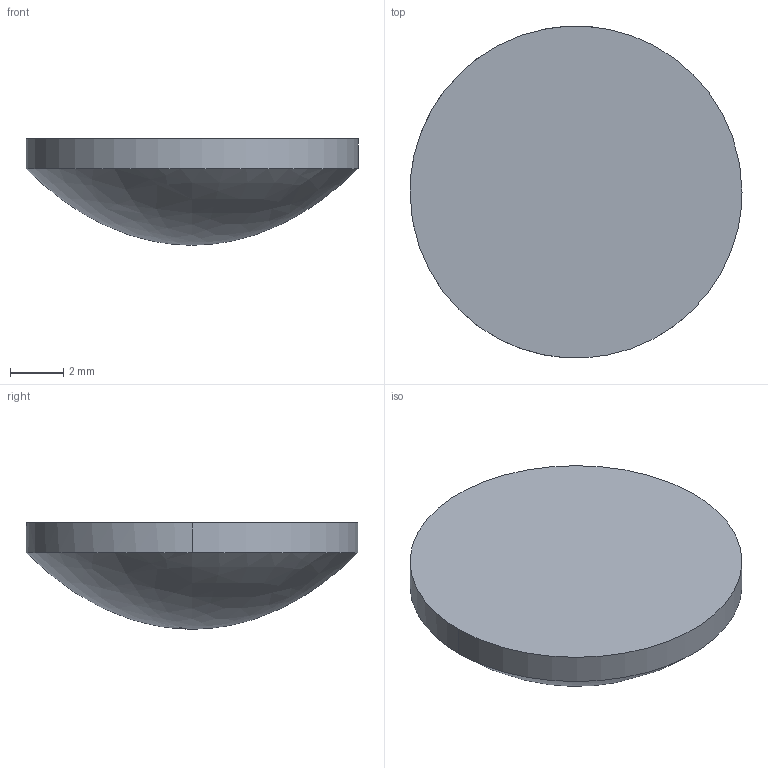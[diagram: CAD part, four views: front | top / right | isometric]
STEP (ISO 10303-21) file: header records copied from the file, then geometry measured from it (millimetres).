
FILE_DESCRIPTION ((), '1');
FILE_NAME ('\\fileserver\Daten\Applikationen\Optikdesign\SPA-Design\aktuelle SPA-Designs\Linsenkataloge - 2016-Juni\Zemax\AFL\AFL12-15.STP', '2016-05-24T14:13:14', ('Unknown'), ('Unknown'), 'HarmonyWare STEP v2.0.1', 'HarmonyWare Translators', '');
FILE_SCHEMA (('CONFIG_CONTROL_DESIGN'));
Length unit declared in the file: millimetre
Products named in the file (1): NONE
Bounding box: 12.5 x 12.49 x 4 mm (x, y, z)
Volume: 319.6 mm3; surface area: 313.8 mm2
Topology: 1 solids, 1 shells, 4 faces, 9 edges, 6 vertices
Faces by surface type: cylinder 2, bspline 1, plane 1
Entity records: 295 total; most frequent: CARTESIAN_POINT 144, ORIENTED_EDGE 16, EDGE_CURVE 8, PERSON 8, ORGANIZATION 8, PERSON_AND_ORGANIZATION 8, VERTEX_POINT 6, DIRECTION 6
